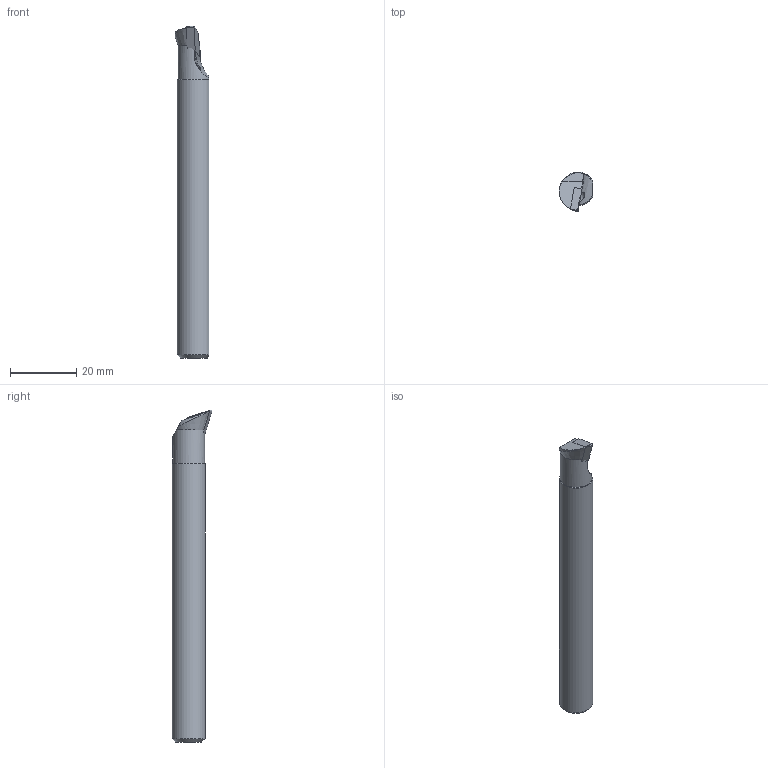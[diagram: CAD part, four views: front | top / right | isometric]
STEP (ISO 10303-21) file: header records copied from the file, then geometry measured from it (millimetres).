
FILE_DESCRIPTION(/* description */ (''),/* implementation_level */ '2;1');
FILE_NAME(/* name */ 'A10H-SDQCR-07-HAAS.stp',/* time_stamp */ '2021-09-29T10:20:21+09:00',/* author */ (''),/* organization */ (''),/* preprocessor_version */ 'ST-DEVELOPER v16',/* originating_system */ 'SIEMENS PLM Software NX 10.0',/* authorisation */ '');
FILE_SCHEMA (('AUTOMOTIVE_DESIGN { 1 0 10303 214 3 1 1 1 }'));
Length unit declared in the file: millimetre
Products named in the file (1): model1
Bounding box: 10.18 x 12 x 100 mm (x, y, z)
Volume: 6644 mm3; surface area: 4104.3 mm2
Topology: 2 solids, 2 shells, 23 faces, 59 edges, 39 vertices
Faces by surface type: plane 12, cone 5, cylinder 5, bspline 1
Full cylindrical faces by diameter (mm): 2.5 x1, 3 x1
Entity records: 786 total; most frequent: CARTESIAN_POINT 227, DIRECTION 107, ORIENTED_EDGE 106, EDGE_CURVE 53, AXIS2_PLACEMENT_3D 41, VERTEX_POINT 36, EDGE_LOOP 27, LINE 25
